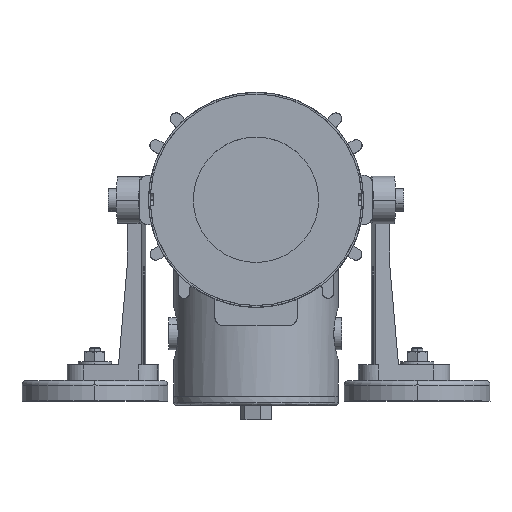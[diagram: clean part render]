
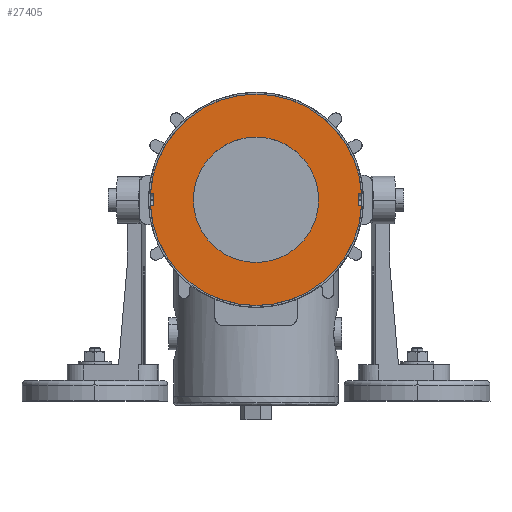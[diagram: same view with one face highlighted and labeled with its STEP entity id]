
A CAD part, top view. The second image highlights one B-rep face of the part: STEP entity #27405.
In plain terms, the highlighted planar face has unit normal (0, 0, 1) as drawn and (0, -1, 0) by its records, which use the part's own axes.
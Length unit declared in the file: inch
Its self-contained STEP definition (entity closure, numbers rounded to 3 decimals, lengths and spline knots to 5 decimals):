
#462 = VERTEX_POINT ( 'NONE', #24611 ) ;
#723 = AXIS2_PLACEMENT_3D ( 'NONE', #28873, #13905, #31426 ) ;
#1066 = CARTESIAN_POINT ( 'NONE',  ( 0., 0., 0. ) ) ;
#2357 = ORIENTED_EDGE ( 'NONE', *, *, #25061, .F. ) ;
#2404 = ORIENTED_EDGE ( 'NONE', *, *, #28274, .F. ) ;
#2890 = ORIENTED_EDGE ( 'NONE', *, *, #28760, .F. ) ;
#3245 = EDGE_CURVE ( 'NONE', #462, #5015, #30673, .T. ) ;
#3581 = DIRECTION ( 'NONE',  ( 0., 0., -1. ) ) ;
#3835 = ORIENTED_EDGE ( 'NONE', *, *, #28335, .F. ) ;
#4299 = CARTESIAN_POINT ( 'NONE',  ( 0., 0., -0.12931 ) ) ;
#4429 = LINE ( 'NONE', #9042, #16979 ) ;
#4588 = EDGE_LOOP ( 'NONE', ( #12738, #2357 ) ) ;
#4661 = ORIENTED_EDGE ( 'NONE', *, *, #24568, .F. ) ;
#4823 = DIRECTION ( 'NONE',  ( 0., -1., 0. ) ) ;
#5015 = VERTEX_POINT ( 'NONE', #32139 ) ;
#5666 = CARTESIAN_POINT ( 'NONE',  ( -2.31923, 0., -0.12931 ) ) ;
#5680 = CARTESIAN_POINT ( 'NONE',  ( -2.24707, 0., 0.12931 ) ) ;
#5691 = CARTESIAN_POINT ( 'NONE',  ( 0., 0., -1.37795 ) ) ;
#5708 = CARTESIAN_POINT ( 'NONE',  ( 0., 0., 0. ) ) ;
#6370 = EDGE_CURVE ( 'NONE', #32485, #27794, #28753, .T. ) ;
#6592 = PLANE ( 'NONE',  #26288 ) ;
#6612 = EDGE_CURVE ( 'NONE', #5015, #15189, #24409, .T. ) ;
#7263 = VECTOR ( 'NONE', #10039, 39.37008 ) ;
#7705 = DIRECTION ( 'NONE',  ( 1., 0., 0. ) ) ;
#8224 = DIRECTION ( 'NONE',  ( 0., 0., 1. ) ) ;
#9042 = CARTESIAN_POINT ( 'NONE',  ( 0., 0., 0.12931 ) ) ;
#9144 = FACE_OUTER_BOUND ( 'NONE', #20398, .T. ) ;
#9218 = CARTESIAN_POINT ( 'NONE',  ( 0., 0., 0. ) ) ;
#9299 = AXIS2_PLACEMENT_3D ( 'NONE', #9591, #27169, #12141 ) ;
#9591 = CARTESIAN_POINT ( 'NONE',  ( 0., 0., 0. ) ) ;
#9765 = LINE ( 'NONE', #4299, #16493 ) ;
#9903 = AXIS2_PLACEMENT_3D ( 'NONE', #19843, #4823, #22369 ) ;
#10039 = DIRECTION ( 'NONE',  ( -1., 0., 0. ) ) ;
#10560 = VERTEX_POINT ( 'NONE', #24891 ) ;
#10667 = LINE ( 'NONE', #22845, #23212 ) ;
#11413 = VERTEX_POINT ( 'NONE', #5680 ) ;
#11701 = DIRECTION ( 'NONE',  ( -1., 0., 0. ) ) ;
#11760 = DIRECTION ( 'NONE',  ( 0., 0., 1. ) ) ;
#11939 = CARTESIAN_POINT ( 'NONE',  ( 2.24707, 0., -0.12931 ) ) ;
#11946 = VERTEX_POINT ( 'NONE', #25032 ) ;
#12141 = DIRECTION ( 'NONE',  ( 0., 0., -1. ) ) ;
#12252 = DIRECTION ( 'NONE',  ( 0., 1., 0. ) ) ;
#12501 = ORIENTED_EDGE ( 'NONE', *, *, #16599, .F. ) ;
#12565 = CARTESIAN_POINT ( 'NONE',  ( 0., 0., 1.37795 ) ) ;
#12670 = CARTESIAN_POINT ( 'NONE',  ( 2.24707, 0., 0.12931 ) ) ;
#12738 = ORIENTED_EDGE ( 'NONE', *, *, #6370, .F. ) ;
#12791 = AXIS2_PLACEMENT_3D ( 'NONE', #28956, #12252, #30628 ) ;
#13167 = CIRCLE ( 'NONE', #723, 2.32283 ) ;
#13267 = ORIENTED_EDGE ( 'NONE', *, *, #29576, .F. ) ;
#13752 = DIRECTION ( 'NONE',  ( 0., 0., -1. ) ) ;
#13905 = DIRECTION ( 'NONE',  ( 0., 1., 0. ) ) ;
#14016 = EDGE_CURVE ( 'NONE', #14328, #15734, #17517, .T. ) ;
#14131 = CARTESIAN_POINT ( 'NONE',  ( -2.24707, 0., 0. ) ) ;
#14328 = VERTEX_POINT ( 'NONE', #26618 ) ;
#14519 = CARTESIAN_POINT ( 'NONE',  ( -2.31923, 0., 0.12931 ) ) ;
#14685 = LINE ( 'NONE', #28752, #28008 ) ;
#15189 = VERTEX_POINT ( 'NONE', #5666 ) ;
#15540 = ORIENTED_EDGE ( 'NONE', *, *, #14016, .F. ) ;
#15734 = VERTEX_POINT ( 'NONE', #12670 ) ;
#15761 = ORIENTED_EDGE ( 'NONE', *, *, #3245, .F. ) ;
#15935 = AXIS2_PLACEMENT_3D ( 'NONE', #5708, #23263, #8224 ) ;
#16493 = VECTOR ( 'NONE', #27066, 39.37008 ) ;
#16599 = EDGE_CURVE ( 'NONE', #15189, #11946, #9765, .T. ) ;
#16889 = LINE ( 'NONE', #14131, #22749 ) ;
#16979 = VECTOR ( 'NONE', #11701, 39.37008 ) ;
#17517 = LINE ( 'NONE', #20054, #7263 ) ;
#17711 = CIRCLE ( 'NONE', #15935, 1.37795 ) ;
#18169 = AXIS2_PLACEMENT_3D ( 'NONE', #1066, #18602, #3581 ) ;
#18602 = DIRECTION ( 'NONE',  ( 0., 1., 0. ) ) ;
#19843 = CARTESIAN_POINT ( 'NONE',  ( 0., 0., 0. ) ) ;
#20054 = CARTESIAN_POINT ( 'NONE',  ( 0., 0., 0.12931 ) ) ;
#20398 = EDGE_LOOP ( 'NONE', ( #13267, #2890, #15540, #2404, #3835, #4661, #29313, #12501, #24013, #15761 ) ) ;
#22366 = VERTEX_POINT ( 'NONE', #11939 ) ;
#22369 = DIRECTION ( 'NONE',  ( 0., 0., 1. ) ) ;
#22749 = VECTOR ( 'NONE', #29209, 39.37008 ) ;
#22845 = CARTESIAN_POINT ( 'NONE',  ( 0., 0., -0.12931 ) ) ;
#23212 = VECTOR ( 'NONE', #7705, 39.37008 ) ;
#23263 = DIRECTION ( 'NONE',  ( 0., -1., 0. ) ) ;
#24013 = ORIENTED_EDGE ( 'NONE', *, *, #6612, .F. ) ;
#24409 = CIRCLE ( 'NONE', #9299, 2.32283 ) ;
#24568 = EDGE_CURVE ( 'NONE', #11413, #31704, #4429, .T. ) ;
#24611 = CARTESIAN_POINT ( 'NONE',  ( 2.31923, 0., -0.12931 ) ) ;
#24891 = CARTESIAN_POINT ( 'NONE',  ( 0., 0., 2.32283 ) ) ;
#25032 = CARTESIAN_POINT ( 'NONE',  ( -2.24707, 0., -0.12931 ) ) ;
#25061 = EDGE_CURVE ( 'NONE', #27794, #32485, #17711, .T. ) ;
#26288 = AXIS2_PLACEMENT_3D ( 'NONE', #9218, #26783, #11760 ) ;
#26618 = CARTESIAN_POINT ( 'NONE',  ( 2.31923, 0., 0.12931 ) ) ;
#26783 = DIRECTION ( 'NONE',  ( 0., 1., 0. ) ) ;
#27066 = DIRECTION ( 'NONE',  ( 1., 0., 0. ) ) ;
#27169 = DIRECTION ( 'NONE',  ( 0., 1., 0. ) ) ;
#27405 = ADVANCED_FACE ( 'NONE', ( #9144, #28378 ), #6592, .F. ) ;
#27794 = VERTEX_POINT ( 'NONE', #5691 ) ;
#28008 = VECTOR ( 'NONE', #13752, 39.37008 ) ;
#28274 = EDGE_CURVE ( 'NONE', #10560, #14328, #29647, .T. ) ;
#28335 = EDGE_CURVE ( 'NONE', #31704, #10560, #13167, .T. ) ;
#28378 = FACE_BOUND ( 'NONE', #4588, .T. ) ;
#28752 = CARTESIAN_POINT ( 'NONE',  ( 2.24707, 0., 0. ) ) ;
#28753 = CIRCLE ( 'NONE', #9903, 1.37795 ) ;
#28760 = EDGE_CURVE ( 'NONE', #15734, #22366, #14685, .T. ) ;
#28873 = CARTESIAN_POINT ( 'NONE',  ( 0., 0., 0. ) ) ;
#28956 = CARTESIAN_POINT ( 'NONE',  ( 0., 0., 0. ) ) ;
#29209 = DIRECTION ( 'NONE',  ( 0., 0., 1. ) ) ;
#29313 = ORIENTED_EDGE ( 'NONE', *, *, #30611, .F. ) ;
#29576 = EDGE_CURVE ( 'NONE', #22366, #462, #10667, .T. ) ;
#29647 = CIRCLE ( 'NONE', #18169, 2.32283 ) ;
#30611 = EDGE_CURVE ( 'NONE', #11946, #11413, #16889, .T. ) ;
#30628 = DIRECTION ( 'NONE',  ( 0., 0., -1. ) ) ;
#30673 = CIRCLE ( 'NONE', #12791, 2.32283 ) ;
#31426 = DIRECTION ( 'NONE',  ( 0., 0., -1. ) ) ;
#31704 = VERTEX_POINT ( 'NONE', #14519 ) ;
#32139 = CARTESIAN_POINT ( 'NONE',  ( 0., 0., -2.32283 ) ) ;
#32485 = VERTEX_POINT ( 'NONE', #12565 ) ;
